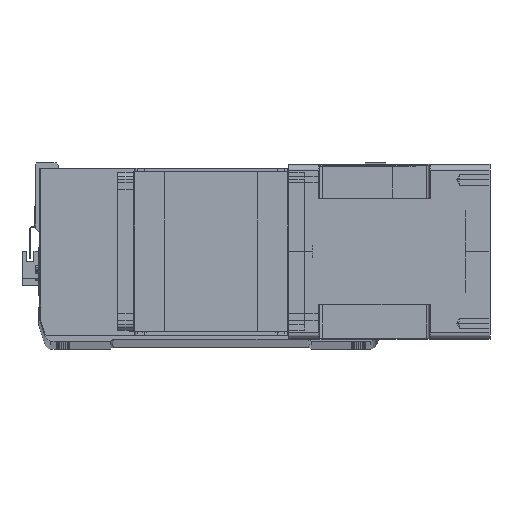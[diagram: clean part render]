
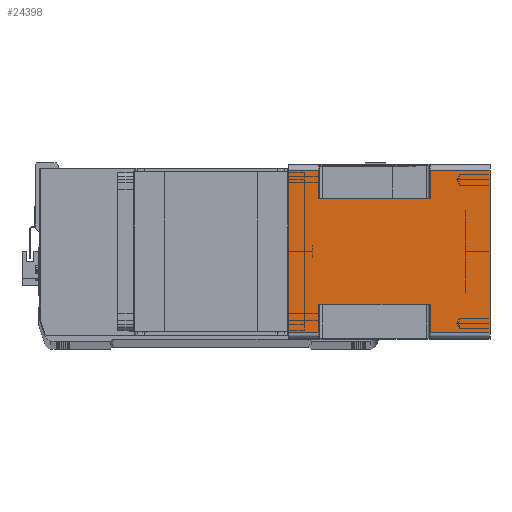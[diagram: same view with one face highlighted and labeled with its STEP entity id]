
A CAD part, top view. The second image highlights one B-rep face of the part: STEP entity #24398.
In plain terms, the highlighted planar face has unit normal (0, 0, 1) as drawn and (1, 0, 0) by its records, which use the part's own axes.
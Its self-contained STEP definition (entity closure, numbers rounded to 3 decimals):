
#243 = CARTESIAN_POINT ( 'NONE',  ( 71., -43., -24.5 ) ) ;
#338 = VECTOR ( 'NONE', #23180, 1000. ) ;
#661 = VERTEX_POINT ( 'NONE', #13076 ) ;
#846 = ORIENTED_EDGE ( 'NONE', *, *, #1121, .T. ) ;
#1121 = EDGE_CURVE ( 'NONE', #3198, #15736, #31304, .T. ) ;
#2056 = ORIENTED_EDGE ( 'NONE', *, *, #9203, .T. ) ;
#3198 = VERTEX_POINT ( 'NONE', #4327 ) ;
#3951 = EDGE_CURVE ( 'NONE', #18548, #19023, #17807, .T. ) ;
#4327 = CARTESIAN_POINT ( 'NONE',  ( 71., 66., -115.5 ) ) ;
#5005 = DIRECTION ( 'NONE',  ( 1., 0., 0. ) ) ;
#6606 = CARTESIAN_POINT ( 'NONE',  ( 71., -66., -115.5 ) ) ;
#6822 = DIRECTION ( 'NONE',  ( 0., 1., 0. ) ) ;
#6949 = CARTESIAN_POINT ( 'NONE',  ( 71., -66., 0. ) ) ;
#7206 = EDGE_CURVE ( 'NONE', #26431, #27736, #12437, .T. ) ;
#8511 = CARTESIAN_POINT ( 'NONE',  ( 71., -66., -24.5 ) ) ;
#8670 = DIRECTION ( 'NONE',  ( 0., 0., 1. ) ) ;
#8679 = ORIENTED_EDGE ( 'NONE', *, *, #28352, .T. ) ;
#8913 = LINE ( 'NONE', #14442, #20328 ) ;
#9203 = EDGE_CURVE ( 'NONE', #21288, #17336, #32076, .T. ) ;
#9378 = VERTEX_POINT ( 'NONE', #23660 ) ;
#9802 = ORIENTED_EDGE ( 'NONE', *, *, #15821, .F. ) ;
#10359 = VERTEX_POINT ( 'NONE', #31555 ) ;
#10462 = CARTESIAN_POINT ( 'NONE',  ( 71., -66., -164. ) ) ;
#10762 = ORIENTED_EDGE ( 'NONE', *, *, #26963, .T. ) ;
#10890 = EDGE_CURVE ( 'NONE', #10359, #9378, #8913, .T. ) ;
#10987 = CARTESIAN_POINT ( 'NONE',  ( 71., 43., -164. ) ) ;
#11208 = VECTOR ( 'NONE', #16897, 1000. ) ;
#12300 = AXIS2_PLACEMENT_3D ( 'NONE', #21904, #5005, #35963 ) ;
#12437 = LINE ( 'NONE', #14792, #23940 ) ;
#12868 = EDGE_LOOP ( 'NONE', ( #15226, #27701, #16549, #2056, #35629, #846, #9802, #15631, #8679, #25954, #14666, #10762 ) ) ;
#13034 = CARTESIAN_POINT ( 'NONE',  ( 71., 43., -115.5 ) ) ;
#13076 = CARTESIAN_POINT ( 'NONE',  ( 71., 66., 0. ) ) ;
#13330 = LINE ( 'NONE', #33339, #22611 ) ;
#14278 = CARTESIAN_POINT ( 'NONE',  ( 71., -66., -164. ) ) ;
#14442 = CARTESIAN_POINT ( 'NONE',  ( 71., -66., -164. ) ) ;
#14544 = VECTOR ( 'NONE', #16003, 1000. ) ;
#14666 = ORIENTED_EDGE ( 'NONE', *, *, #10890, .F. ) ;
#14792 = CARTESIAN_POINT ( 'NONE',  ( 71., -43., -164. ) ) ;
#14920 = DIRECTION ( 'NONE',  ( 0., 0., 1. ) ) ;
#15226 = ORIENTED_EDGE ( 'NONE', *, *, #7206, .F. ) ;
#15398 = LINE ( 'NONE', #6949, #36063 ) ;
#15631 = ORIENTED_EDGE ( 'NONE', *, *, #3951, .T. ) ;
#15736 = VERTEX_POINT ( 'NONE', #24920 ) ;
#15821 = EDGE_CURVE ( 'NONE', #18548, #15736, #31922, .T. ) ;
#16003 = DIRECTION ( 'NONE',  ( 0., -1., 0. ) ) ;
#16035 = VECTOR ( 'NONE', #30652, 1000. ) ;
#16275 = EDGE_CURVE ( 'NONE', #21288, #25030, #35817, .T. ) ;
#16549 = ORIENTED_EDGE ( 'NONE', *, *, #16275, .F. ) ;
#16897 = DIRECTION ( 'NONE',  ( 0., 1., 0. ) ) ;
#17336 = VERTEX_POINT ( 'NONE', #33814 ) ;
#17432 = DIRECTION ( 'NONE',  ( 0., 0., 1. ) ) ;
#17807 = LINE ( 'NONE', #8511, #11208 ) ;
#18036 = CARTESIAN_POINT ( 'NONE',  ( 71., -43., -115.5 ) ) ;
#18421 = LINE ( 'NONE', #25798, #338 ) ;
#18548 = VERTEX_POINT ( 'NONE', #18573 ) ;
#18573 = CARTESIAN_POINT ( 'NONE',  ( 71., 43., -24.5 ) ) ;
#18658 = LINE ( 'NONE', #32224, #32774 ) ;
#18844 = VECTOR ( 'NONE', #28823, 1000. ) ;
#18901 = DIRECTION ( 'NONE',  ( 0., 0., 1. ) ) ;
#19023 = VERTEX_POINT ( 'NONE', #35412 ) ;
#20328 = VECTOR ( 'NONE', #8670, 1000. ) ;
#21288 = VERTEX_POINT ( 'NONE', #14278 ) ;
#21904 = CARTESIAN_POINT ( 'NONE',  ( 71., -66., -164. ) ) ;
#22611 = VECTOR ( 'NONE', #17432, 1000. ) ;
#23180 = DIRECTION ( 'NONE',  ( 0., 1., 0. ) ) ;
#23660 = CARTESIAN_POINT ( 'NONE',  ( 71., -66., 0. ) ) ;
#23940 = VECTOR ( 'NONE', #14920, 1000. ) ;
#24398 = ADVANCED_FACE ( 'NONE', ( #30119 ), #36206, .T. ) ;
#24920 = CARTESIAN_POINT ( 'NONE',  ( 71., 43., -115.5 ) ) ;
#25030 = VERTEX_POINT ( 'NONE', #26917 ) ;
#25798 = CARTESIAN_POINT ( 'NONE',  ( 71., -43., -24.5 ) ) ;
#25954 = ORIENTED_EDGE ( 'NONE', *, *, #26495, .F. ) ;
#26369 = CARTESIAN_POINT ( 'NONE',  ( 71., -66., -164. ) ) ;
#26431 = VERTEX_POINT ( 'NONE', #18036 ) ;
#26469 = DIRECTION ( 'NONE',  ( 0., 0., 1. ) ) ;
#26495 = EDGE_CURVE ( 'NONE', #9378, #661, #15398, .T. ) ;
#26584 = DIRECTION ( 'NONE',  ( 0., -1., 0. ) ) ;
#26917 = CARTESIAN_POINT ( 'NONE',  ( 71., -66., -115.5 ) ) ;
#26963 = EDGE_CURVE ( 'NONE', #10359, #27736, #18421, .T. ) ;
#27701 = ORIENTED_EDGE ( 'NONE', *, *, #31322, .T. ) ;
#27736 = VERTEX_POINT ( 'NONE', #243 ) ;
#28327 = LINE ( 'NONE', #6606, #30067 ) ;
#28352 = EDGE_CURVE ( 'NONE', #19023, #661, #18658, .T. ) ;
#28778 = EDGE_CURVE ( 'NONE', #17336, #3198, #13330, .T. ) ;
#28823 = DIRECTION ( 'NONE',  ( 0., 1., 0. ) ) ;
#30067 = VECTOR ( 'NONE', #26584, 1000. ) ;
#30119 = FACE_OUTER_BOUND ( 'NONE', #12868, .T. ) ;
#30652 = DIRECTION ( 'NONE',  ( 0., 0., -1. ) ) ;
#31304 = LINE ( 'NONE', #13034, #14544 ) ;
#31322 = EDGE_CURVE ( 'NONE', #26431, #25030, #28327, .T. ) ;
#31555 = CARTESIAN_POINT ( 'NONE',  ( 71., -66., -24.5 ) ) ;
#31922 = LINE ( 'NONE', #10987, #16035 ) ;
#32076 = LINE ( 'NONE', #26369, #18844 ) ;
#32224 = CARTESIAN_POINT ( 'NONE',  ( 71., 66., -164. ) ) ;
#32774 = VECTOR ( 'NONE', #26469, 1000. ) ;
#33339 = CARTESIAN_POINT ( 'NONE',  ( 71., 66., -164. ) ) ;
#33814 = CARTESIAN_POINT ( 'NONE',  ( 71., 66., -164. ) ) ;
#34919 = VECTOR ( 'NONE', #18901, 1000. ) ;
#35412 = CARTESIAN_POINT ( 'NONE',  ( 71., 66., -24.5 ) ) ;
#35629 = ORIENTED_EDGE ( 'NONE', *, *, #28778, .T. ) ;
#35817 = LINE ( 'NONE', #10462, #34919 ) ;
#35963 = DIRECTION ( 'NONE',  ( 0., 1., 0. ) ) ;
#36063 = VECTOR ( 'NONE', #6822, 1000. ) ;
#36206 = PLANE ( 'NONE',  #12300 ) ;
